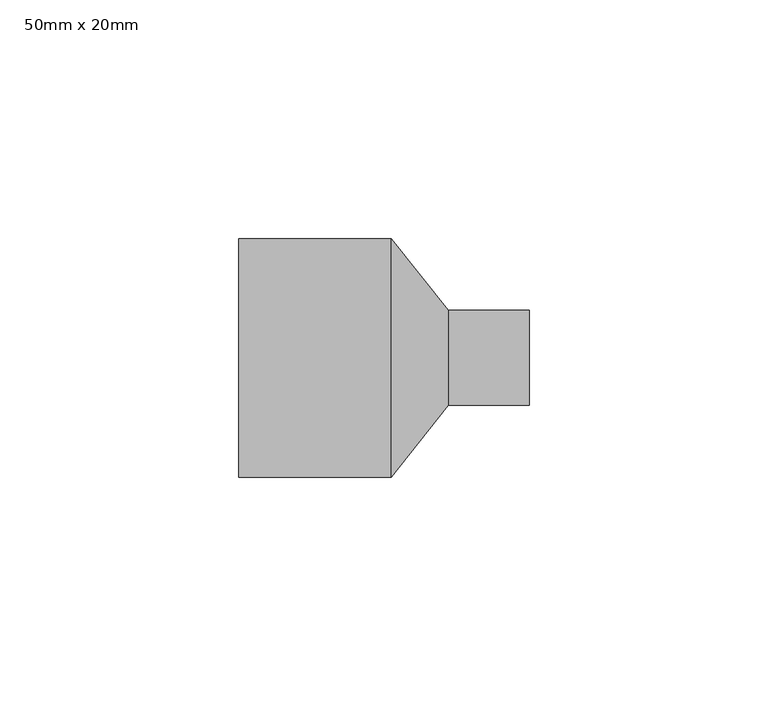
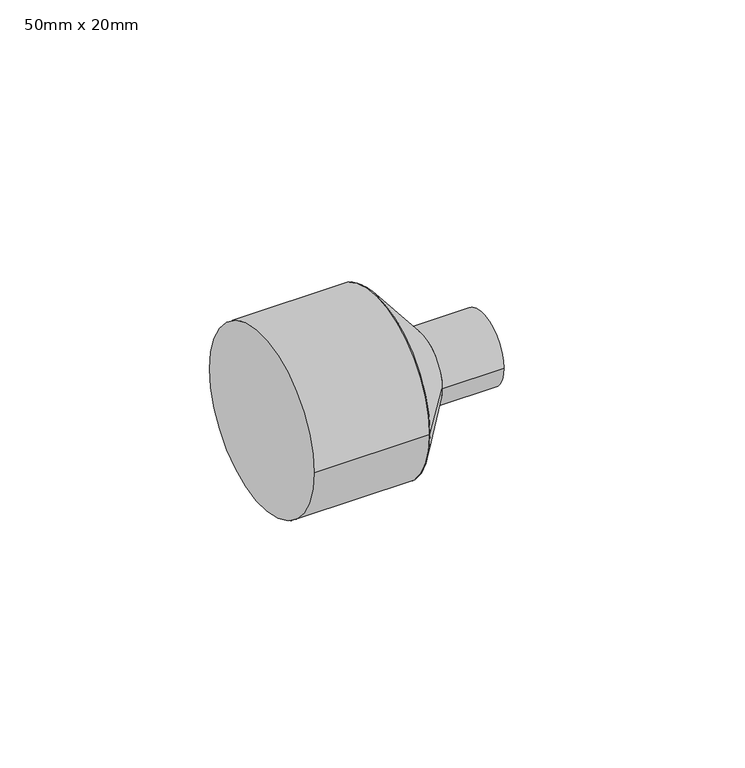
"""IFC4 building model written with IfcOpenShell, lengths in millimetres: pipe fitting geometry, PipeFitting_HTA_CPVC_ReducingBushesLongPattern : 50mm x 20mm."""

from ifc_helpers import new_model, si_unit, point, frame, origin, origin_2d, place, context, project, spatial, polyline, circle_curve, trimmed, segment, composite_curve, outline, extrude, source, transform, mapped, element, save
from ifc_brep_helpers import plane_surface, revolved_surface, advanced_brep


def pipe_fitting_50mm_x_20mm_9a515e40(model_context):
    return source(origin(), model_context, "Body", "SolidModel", [
        advanced_brep(
        [(44.0, -10.0, 0.0), (44.0, 10.0, 0.0), (32.0, -25.0, 0.0), (32.0, 25.0, 0.0)],
        [
            (0, 1, circle_curve(frame((44.0, 0.0, 0.0), z_axis=(1.0, 0.0, 0.0), x_axis=(0.0, -1.0, 0.0)), 10.0)),
            (1, 0, circle_curve(frame((44.0, 0.0, 0.0), z_axis=(1.0, 0.0, 0.0), x_axis=(0.0, 1.0, 0.0)), 10.0)),
            (2, 3, circle_curve(frame((32.0, 0.0, 0.0), z_axis=(-1.0, 0.0, 0.0), x_axis=(0.0, 1.0, 0.0)), 25.0)),
            (3, 2, circle_curve(frame((32.0, 0.0, 0.0), z_axis=(-1.0, 0.0, 0.0), x_axis=(0.0, -1.0, 0.0)), 25.0)),
            (3, 1),
            (0, 2),
        ],
        [
            plane_surface(frame((44.0, 0.0, 0.0), z_axis=(1.0, 0.0, 0.0), x_axis=(0.0, 0.0, -1.0))),
            plane_surface(frame((32.0, 0.0, 0.0), z_axis=(-1.0, 0.0, 0.0), x_axis=(0.0, 0.0, -1.0))),
            revolved_surface(polyline([(44.0, -10.0, 0.0), (32.0, -25.0, 0.0)]), (52.0, 0.0, 0.0), (-1.0, 0.0, 0.0)),
            revolved_surface(polyline([(44.0, 10.0, 0.0), (32.0, 25.0, 0.0)]), (52.0, 0.0, 0.0), (-1.0, 0.0, 0.0)),
        ],
        [
            (0, [[1, 2]]),
            (1, [[3, 4]]),
            (2, [[-4, 5, -1, 6]]),
            (3, [[-3, -6, -2, -5]]),
        ],
    ),
        extrude(outline(composite_curve([segment(trimmed(circle_curve(origin_2d(), 10.0), [point((-10.0, 0.0))], [point((10.0, 0.0))], False, "CARTESIAN"), True, "CONTINUOUS"), segment(trimmed(circle_curve(origin_2d(), 10.0), [point((10.0, 0.0))], [point((-10.0, 0.0))], False, "CARTESIAN"), True, "CONTINUOUS")], self_intersect=False)), frame((44.0, 0.0, 0.0), z_axis=(1.0, 0.0, 0.0), x_axis=(0.0, 1.0, 0.0)), (0.0, 0.0, 1.0), 17.0),
        extrude(outline(composite_curve([segment(trimmed(circle_curve(origin_2d(), 25.0), [point((-25.0, 0.0))], [point((25.0, 0.0))], False, "CARTESIAN"), True, "CONTINUOUS"), segment(trimmed(circle_curve(origin_2d(), 25.0), [point((25.0, 0.0))], [point((-25.0, 0.0))], False, "CARTESIAN"), True, "CONTINUOUS")], self_intersect=False)), frame((0.0, 0.0, 0.0), z_axis=(1.0, 0.0, 0.0), x_axis=(0.0, 1.0, 0.0)), (0.0, 0.0, 1.0), 32.0),
    ])


if __name__ == "__main__":
    model = new_model("IFC4")
    model_context = context("Model", 3, world=origin())
    ifc_project = project(units=[si_unit("LENGTHUNIT", "METRE", prefix="MILLI")], contexts=[model_context])
    site = spatial("IfcSite", under=ifc_project)
    building = spatial("IfcBuilding", under=site)
    placement = place(None, origin())
    pipe_fitting_50mm_x_20mm_shape = pipe_fitting_50mm_x_20mm_9a515e40(model_context)
    element("IfcPipeFitting", 1, ObjectType="PipeFitting_HTA_CPVC_ReducingBushesLongPattern : 50mm x 20mm", at=placement, inside=building, context=model_context, shape_type="MappedRepresentation", body=[
        mapped(pipe_fitting_50mm_x_20mm_shape, transform((0.0, 0.0, 0.0), x_axis=(1.0, 0.0, 0.0), y_axis=(0.0, 1.0, 0.0), z_axis=(0.0, 0.0, 1.0))),
    ])
    save(model, "model.ifc")
